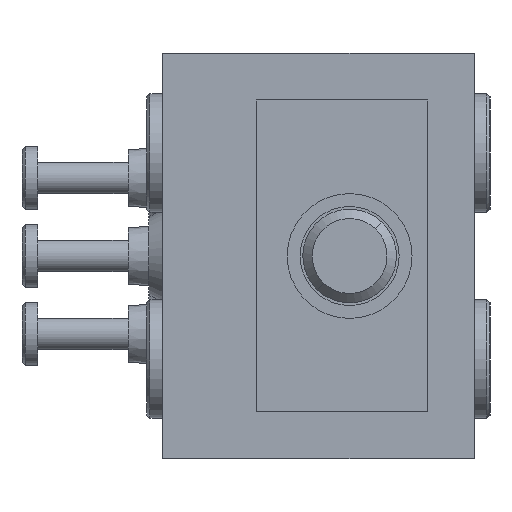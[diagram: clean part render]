
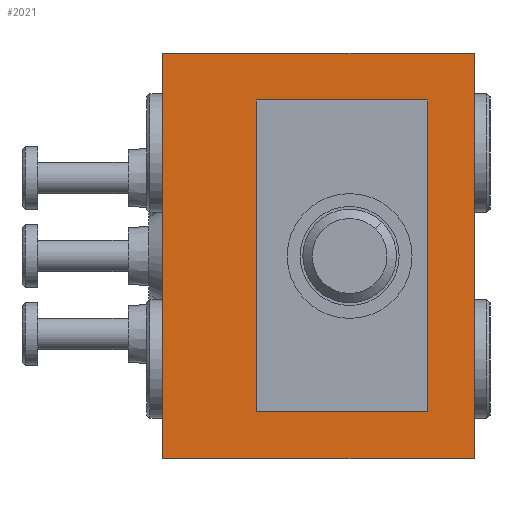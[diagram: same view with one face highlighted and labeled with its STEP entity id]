
A CAD part, left-side view. The second image highlights one B-rep face of the part: STEP entity #2021.
In plain terms, the highlighted planar face has unit normal (-1, 0, 0).
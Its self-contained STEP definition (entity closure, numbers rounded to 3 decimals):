
#12 = VECTOR ( 'NONE', #8945, 1000. ) ;
#29 = VERTEX_POINT ( 'NONE', #12645 ) ;
#165 = ORIENTED_EDGE ( 'NONE', *, *, #4584, .F. ) ;
#387 = CARTESIAN_POINT ( 'NONE',  ( -25.5, -3.5, -5. ) ) ;
#416 = CARTESIAN_POINT ( 'NONE',  ( -25.5, 5., 6.5 ) ) ;
#530 = CARTESIAN_POINT ( 'NONE',  ( -25.5, 2., 5. ) ) ;
#967 = VECTOR ( 'NONE', #2775, 1000. ) ;
#1260 = VECTOR ( 'NONE', #7150, 1000. ) ;
#1290 = CARTESIAN_POINT ( 'NONE',  ( -25.5, 2., -5. ) ) ;
#1346 = CARTESIAN_POINT ( 'NONE',  ( -25.5, 5., 6.5 ) ) ;
#1435 = DIRECTION ( 'NONE',  ( 0., 1., 0. ) ) ;
#1469 = CARTESIAN_POINT ( 'NONE',  ( -25.5, 5., -6.5 ) ) ;
#1597 = DIRECTION ( 'NONE',  ( 1., 0., 0. ) ) ;
#1674 = VERTEX_POINT ( 'NONE', #530 ) ;
#1700 = VERTEX_POINT ( 'NONE', #5217 ) ;
#1858 = ORIENTED_EDGE ( 'NONE', *, *, #9253, .T. ) ;
#2021 = ADVANCED_FACE ( 'NONE', ( #2717, #14388 ), #6226, .F. ) ;
#2717 = FACE_BOUND ( 'NONE', #7288, .T. ) ;
#2775 = DIRECTION ( 'NONE',  ( 0., -1., 0. ) ) ;
#2812 = EDGE_CURVE ( 'NONE', #8880, #4393, #10839, .T. ) ;
#3216 = ORIENTED_EDGE ( 'NONE', *, *, #10871, .F. ) ;
#3700 = DIRECTION ( 'NONE',  ( 0., 0., -1. ) ) ;
#3822 = EDGE_CURVE ( 'NONE', #29, #5763, #6796, .T. ) ;
#4346 = CARTESIAN_POINT ( 'NONE',  ( -25.5, -3.5, 5. ) ) ;
#4393 = VERTEX_POINT ( 'NONE', #4346 ) ;
#4584 = EDGE_CURVE ( 'NONE', #12509, #8880, #8505, .T. ) ;
#4766 = VECTOR ( 'NONE', #1435, 1000. ) ;
#4782 = EDGE_CURVE ( 'NONE', #1674, #12509, #9752, .T. ) ;
#4994 = VECTOR ( 'NONE', #8570, 1000. ) ;
#5021 = ORIENTED_EDGE ( 'NONE', *, *, #8143, .F. ) ;
#5086 = CARTESIAN_POINT ( 'NONE',  ( -25.5, 2., -5. ) ) ;
#5092 = DIRECTION ( 'NONE',  ( 0., 0., -1. ) ) ;
#5217 = CARTESIAN_POINT ( 'NONE',  ( -25.5, 5., 6.5 ) ) ;
#5381 = VECTOR ( 'NONE', #5915, 1000. ) ;
#5742 = CARTESIAN_POINT ( 'NONE',  ( -25.5, -5., 6.5 ) ) ;
#5763 = VERTEX_POINT ( 'NONE', #8944 ) ;
#5905 = AXIS2_PLACEMENT_3D ( 'NONE', #416, #1597, #9747 ) ;
#5915 = DIRECTION ( 'NONE',  ( 0., -1., 0. ) ) ;
#6196 = LINE ( 'NONE', #13617, #12 ) ;
#6226 = PLANE ( 'NONE',  #5905 ) ;
#6779 = EDGE_LOOP ( 'NONE', ( #10604, #7149, #3216, #1858 ) ) ;
#6796 = LINE ( 'NONE', #1469, #967 ) ;
#7149 = ORIENTED_EDGE ( 'NONE', *, *, #9865, .F. ) ;
#7150 = DIRECTION ( 'NONE',  ( 0., -1., 0. ) ) ;
#7288 = EDGE_LOOP ( 'NONE', ( #10125, #165, #12695, #5021 ) ) ;
#7591 = VERTEX_POINT ( 'NONE', #5742 ) ;
#8143 = EDGE_CURVE ( 'NONE', #4393, #1674, #14074, .T. ) ;
#8505 = LINE ( 'NONE', #1290, #5381 ) ;
#8570 = DIRECTION ( 'NONE',  ( 0., 0., 1. ) ) ;
#8880 = VERTEX_POINT ( 'NONE', #9108 ) ;
#8944 = CARTESIAN_POINT ( 'NONE',  ( -25.5, -5., -6.5 ) ) ;
#8945 = DIRECTION ( 'NONE',  ( 0., 0., -1. ) ) ;
#9108 = CARTESIAN_POINT ( 'NONE',  ( -25.5, -3.5, -5. ) ) ;
#9253 = EDGE_CURVE ( 'NONE', #1700, #29, #6196, .T. ) ;
#9590 = CARTESIAN_POINT ( 'NONE',  ( -25.5, 2., 5. ) ) ;
#9658 = VECTOR ( 'NONE', #3700, 1000. ) ;
#9747 = DIRECTION ( 'NONE',  ( 0., 1., 0. ) ) ;
#9752 = LINE ( 'NONE', #13248, #12864 ) ;
#9865 = EDGE_CURVE ( 'NONE', #7591, #5763, #12766, .T. ) ;
#10125 = ORIENTED_EDGE ( 'NONE', *, *, #2812, .F. ) ;
#10604 = ORIENTED_EDGE ( 'NONE', *, *, #3822, .T. ) ;
#10839 = LINE ( 'NONE', #387, #4994 ) ;
#10871 = EDGE_CURVE ( 'NONE', #1700, #7591, #13278, .T. ) ;
#11782 = CARTESIAN_POINT ( 'NONE',  ( -25.5, -5., 6.5 ) ) ;
#12509 = VERTEX_POINT ( 'NONE', #5086 ) ;
#12645 = CARTESIAN_POINT ( 'NONE',  ( -25.5, 5., -6.5 ) ) ;
#12695 = ORIENTED_EDGE ( 'NONE', *, *, #4782, .F. ) ;
#12766 = LINE ( 'NONE', #11782, #9658 ) ;
#12864 = VECTOR ( 'NONE', #5092, 1000. ) ;
#13248 = CARTESIAN_POINT ( 'NONE',  ( -25.5, 2., -5. ) ) ;
#13278 = LINE ( 'NONE', #1346, #1260 ) ;
#13617 = CARTESIAN_POINT ( 'NONE',  ( -25.5, 5., 6.5 ) ) ;
#14074 = LINE ( 'NONE', #9590, #4766 ) ;
#14388 = FACE_OUTER_BOUND ( 'NONE', #6779, .T. ) ;
